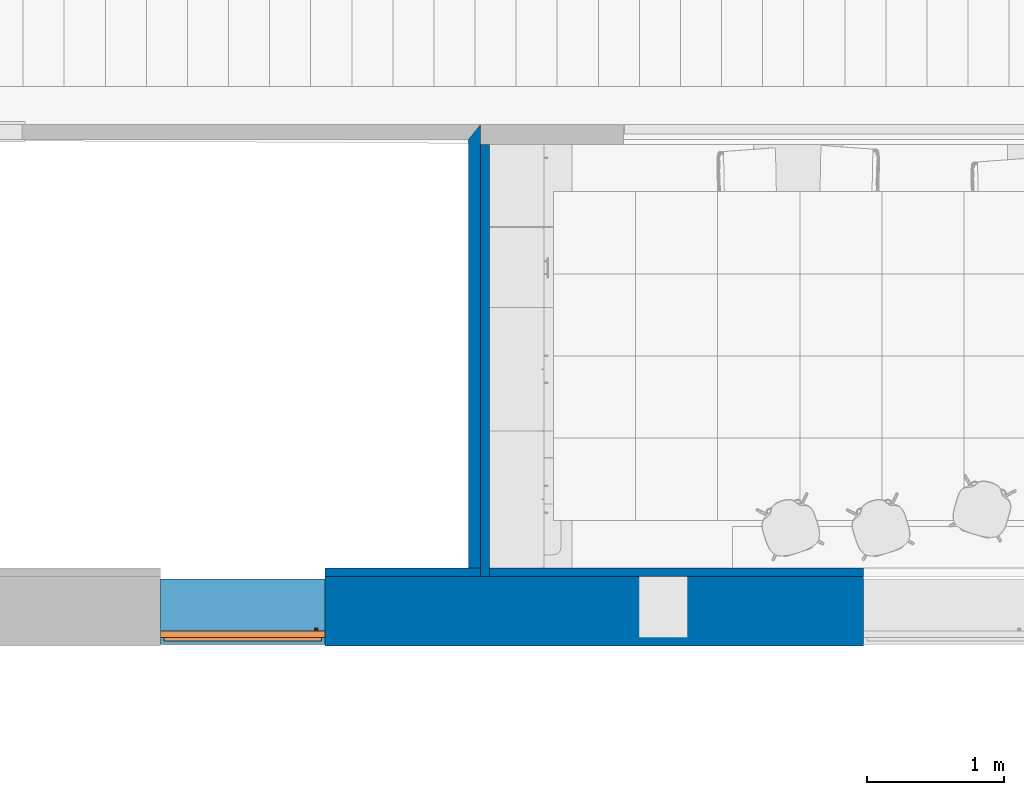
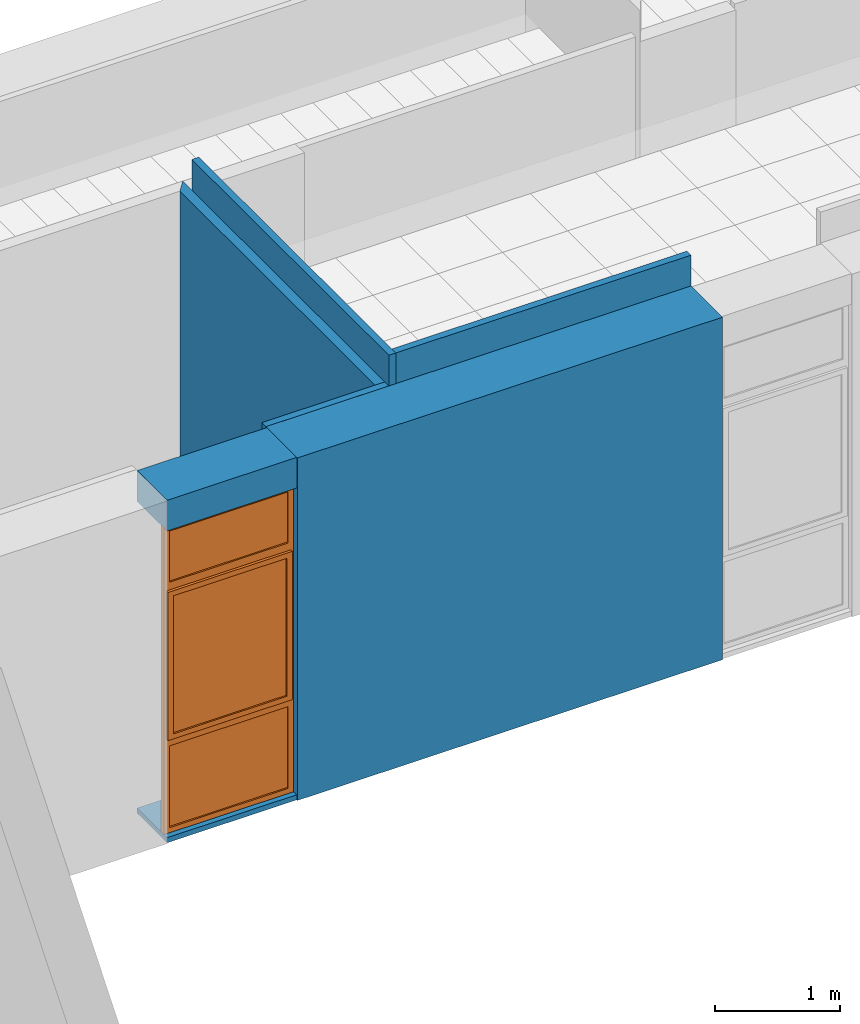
# One storey, part 33 of 60: 6 walls, 1 proxy, 1 opening.
"""IFC2X3 building model written with IfcOpenShell, lengths in millimetres."""

from ifc_helpers import new_model, entity, si_unit, converted_unit, derived_unit, money_unit, direction, frame, origin_with_axes, origin_2d_with_axis, place, context, subcontext, project, spatial, polyline, rectangle, outline, extrude, open_shell, faceted_brep, surface_model, source, transform, mapped, material, layer, layer_set, layer_usage, type_object, element, fill, save


model = new_model("IFC2X3")

# Units and contexts
model_context = context("Model", 3, precision=0.01, world=origin_with_axes(), true_north=direction((0.0, 1.0)))
body_context = subcontext(model_context, "Body", "Model", "MODEL_VIEW")
ifc_project = project(units=[si_unit("LENGTHUNIT", "METRE", prefix="MILLI"), si_unit("AREAUNIT", "SQUARE_METRE"), si_unit("VOLUMEUNIT", "CUBIC_METRE"), converted_unit("PLANEANGLEUNIT", "DEGREE", entity("IfcPlaneAngleMeasure", 0.0174532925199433), si_unit("PLANEANGLEUNIT", "RADIAN"), dimensions=[0, 0, 0, 0, 0, 0, 0]), money_unit("USD"), converted_unit("TIMEUNIT", "Year", entity("IfcTimeMeasure", 31557600.0), si_unit("TIMEUNIT", "SECOND"), dimensions=[0, 0, 1, 0, 0, 0, 0]), si_unit("MASSUNIT", "GRAM", prefix="KILO"), si_unit("THERMODYNAMICTEMPERATUREUNIT", "DEGREE_CELSIUS"), si_unit("LUMINOUSINTENSITYUNIT", "LUMEN"), si_unit("ENERGYUNIT", "JOULE", prefix="MEGA"), derived_unit("THERMALCONDUCTANCEUNIT", [(si_unit("POWERUNIT", "WATT"), 1), (si_unit("LENGTHUNIT", "METRE"), -1), (si_unit("THERMODYNAMICTEMPERATUREUNIT", "KELVIN"), -1)]), derived_unit("SPECIFICHEATCAPACITYUNIT", [(si_unit("ENERGYUNIT", "JOULE"), 1), (si_unit("MASSUNIT", "GRAM", prefix="KILO"), -1), (si_unit("THERMODYNAMICTEMPERATUREUNIT", "KELVIN"), -1)]), derived_unit("MASSDENSITYUNIT", [(si_unit("MASSUNIT", "GRAM", prefix="KILO"), 1), (si_unit("VOLUMEUNIT", "CUBIC_METRE"), -1)])], contexts=[model_context])

# Site, building, storey
site_placement = place(None, origin_with_axes())
site = spatial("IfcSite", under=ifc_project, at=site_placement, Name="Sitio", CompositionType="ELEMENT")
building_placement = place(site_placement, origin_with_axes())
building = spatial("IfcBuilding", under=site, at=building_placement, Name="Construcción", CompositionType="ELEMENT")
storey_placement = place(building_placement, frame((0.0, 0.0, 3650.0), z_axis=(0.0, 0.0, 1.0), x_axis=(1.0, 0.0, 0.0)))
storey = spatial("IfcBuildingStorey", under=building, at=storey_placement, Name="PLANTA 2ª", CompositionType="ELEMENT", Elevation=3650.0)

# Wall, opening, proxy
ifc_material_1 = material(Name="ARQ_AM246_Arrebossat_De_Guix")
ifc_layer_1 = layer(ifc_material_1, 10.0, ventilated="UNKNOWN")
ifc_material_2 = material(Name="ARQ_CE217_Gero")
ifc_layer_2 = layer(ifc_material_2, 120.0, ventilated="UNKNOWN")
ifc_material_3 = material(Name="ARQ_AI031_Aillament_Poliestireno expandido EPS")
ifc_layer_3 = layer(ifc_material_3, 120.0, ventilated="UNKNOWN")
ifc_material_4 = material(Name="ARQ_CE218_Ceramic")
ifc_layer_4 = layer(ifc_material_4, 220.0, ventilated="UNKNOWN")
ifc_layer_5 = layer(ifc_material_1, 10.0, ventilated="UNKNOWN")
ifc_layer_set_1 = layer_set([ifc_layer_1, ifc_layer_2, ifc_layer_3, ifc_layer_4, ifc_layer_5], Name="façana pati CR2 (ampit)")
ifc_layer_usage_1 = layer_usage(ifc_layer_set_1, "AXIS2", "POSITIVE", -480.0)
wall_type_1 = type_object("IfcWallType", Name="façana pati CR2 (ampit) 480", PredefinedType="NOTDEFINED")
wall_1_placement = place(storey_placement, frame((-25366.43135579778, -1208.97582371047, 0.0), z_axis=(0.0, 0.0, 1.0), x_axis=(1.0, 0.0, 0.0)))
wall_1 = element("IfcWallStandardCase", 1, at=wall_1_placement, inside=storey, type_object=wall_type_1, material=ifc_layer_usage_1, Name="MS-200", context=body_context, shape_type="SweptSolid", body=[
    extrude(outline(polyline([(0.0, -480.0), (1200.000000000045, -480.0), (1200.000000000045, 0.0), (0.0, 0.0), (0.0, -480.0)])), origin_with_axes(), (0.0, 0.0, 1.0), 3350.0),
])
opening_placement = place(wall_1_placement, frame((600.0000000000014, 0.0, 49.99999999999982), z_axis=(0.0, 0.0, 1.0), x_axis=(1.0, 0.0, 0.0)))
opening = element("IfcOpeningElement", 2, at=opening_placement, cuts=wall_1, Name="V - 008", context=body_context, shape_type="SweptSolid", body=[
    extrude(rectangle(XDim=1200.000000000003, YDim=3000.0, at=origin_2d_with_axis()), frame((0.0, -429.9999999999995, 1500.0), z_axis=(0.0, -1.0, 0.0), x_axis=(-1.0, 0.0, 0.0)), (0.0, 0.0, -1.0), 909.9999999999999),
    extrude(rectangle(XDim=1200.000000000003, YDim=3000.0, at=origin_2d_with_axis()), frame((0.0, -429.9999999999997, 1500.0), z_axis=(0.0, 1.0, 0.0), x_axis=(-1.0, 0.0, 0.0)), (0.0, 0.0, -1.0), 530.0),
])
building_element_proxy_type = type_object("IfcBuildingElementProxyType", Name="Ventana Vertical Multi-Faja 27", PredefinedType="NOTDEFINED")
shared_shape = source(origin_with_axes(), body_context, "Body", "SurfaceModel", [
    faceted_brep([(-575.0, 0.0, 925.0), (-549.9999999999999, 0.0, 925.0), (-549.9999999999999, 0.0, 850.0), (-549.9999999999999, 0.0, 50.00000000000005), (-600.0, 0.0, 50.00000000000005), (-600.0, 0.0, 2950.0), (-549.9999999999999, 0.0, 2950.0), (-549.9999999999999, 0.0, 2450.0), (-549.9999999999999, 0.0, 2375.0), (-575.0, 0.0, 2375.0), (-575.0, -25.00000000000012, 925.0), (-549.9999999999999, -25.00000000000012, 925.0), (-549.9999999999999, -25.00000000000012, 950.0000000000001), (-549.9999999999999, -50.00000000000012, 950.0000000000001), (-549.9999999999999, -50.00000000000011, 850.0), (-549.9999999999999, -50.00000000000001, 50.00000000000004), (-600.0, -50.00000000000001, 50.00000000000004), (-600.0, -50.00000000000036, 2950.0), (-549.9999999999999, -50.00000000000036, 2950.0), (-549.9999999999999, -50.0000000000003, 2450.0), (-550.0, -25.00000000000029, 2375.0), (-549.9999999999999, -50.00000000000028, 2350.0), (-549.9999999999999, -25.00000000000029, 2350.0), (-575.0, -25.00000000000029, 2375.0)], [[[0, 1, 2, 3, 4, 5, 6, 7, 8, 9]], [[0, 10, 11, 1]], [[11, 12, 13, 14, 2, 1]], [[3, 2, 14, 15]], [[4, 3, 15, 16]], [[5, 4, 16, 17]], [[6, 5, 17, 18]], [[7, 6, 18, 19]], [[20, 8, 7, 19, 21, 22]], [[20, 23, 9, 8]], [[9, 23, 10, 0]], [[22, 12, 11, 10, 23, 20]], [[22, 21, 13, 12]], [[17, 16, 15, 14, 13, 21, 19, 18]]]),
    faceted_brep([(575.0, 0.0, 925.0), (575.0, 0.0, 2375.0), (549.9999999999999, 0.0, 2375.0), (549.9999999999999, 0.0, 2450.0), (549.9999999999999, 0.0, 2950.0), (600.0, 0.0, 2950.0), (600.0, 0.0, 50.00000000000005), (549.9999999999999, 0.0, 50.00000000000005), (549.9999999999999, 0.0, 850.0), (549.9999999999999, 0.0, 925.0), (575.0, -25.00000000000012, 925.0), (575.0, -25.00000000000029, 2375.0), (549.9999999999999, -25.00000000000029, 2375.0), (549.9999999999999, -25.00000000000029, 2350.0), (549.9999999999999, -50.00000000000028, 2350.0), (549.9999999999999, -50.0000000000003, 2450.0), (549.9999999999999, -50.00000000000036, 2950.0), (600.0, -50.00000000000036, 2950.0), (600.0, -50.00000000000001, 50.00000000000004), (549.9999999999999, -50.00000000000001, 50.00000000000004), (549.9999999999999, -50.00000000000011, 850.0), (550.0, -25.00000000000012, 925.0), (549.9999999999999, -50.00000000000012, 950.0000000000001), (549.9999999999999, -25.00000000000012, 950.0000000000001)], [[[0, 1, 2, 3, 4, 5, 6, 7, 8, 9]], [[0, 10, 11, 1]], [[1, 11, 12, 2]], [[12, 13, 14, 15, 3, 2]], [[4, 3, 15, 16]], [[5, 4, 16, 17]], [[6, 5, 17, 18]], [[7, 6, 18, 19]], [[8, 7, 19, 20]], [[21, 9, 8, 20, 22, 23]], [[9, 21, 10, 0]], [[12, 11, 10, 21, 23, 13]], [[23, 22, 14, 13]], [[14, 22, 20, 19, 18, 17, 16, 15]]]),
    faceted_brep([(-549.9999999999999, -25.00000000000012, 950.0000000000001), (-549.9999999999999, -50.00000000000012, 950.0000000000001), (549.9999999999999, -50.00000000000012, 950.0000000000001), (549.9999999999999, -25.00000000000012, 950.0000000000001), (-549.9999999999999, -25.00000000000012, 925.0), (-549.9999999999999, 0.0, 925.0), (-549.9999999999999, 0.0, 850.0), (-549.9999999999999, -50.00000000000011, 850.0), (549.9999999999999, -50.00000000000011, 850.0), (550.0, -25.00000000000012, 925.0), (549.9999999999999, 0.0, 850.0), (549.9999999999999, 0.0, 925.0)], [[[0, 1, 2, 3]], [[4, 5, 6, 7, 1, 0]], [[1, 7, 8, 2]], [[9, 3, 2, 8, 10, 11]], [[9, 4, 0, 3]], [[5, 4, 9, 11]], [[11, 10, 6, 5]], [[6, 10, 8, 7]]]),
    faceted_brep([(-549.9999999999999, 0.0, 2375.0), (-549.9999999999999, 0.0, 2450.0), (549.9999999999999, 0.0, 2450.0), (549.9999999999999, 0.0, 2375.0), (-550.0, -25.00000000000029, 2375.0), (-549.9999999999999, -25.00000000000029, 2350.0), (-549.9999999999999, -50.00000000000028, 2350.0), (-549.9999999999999, -50.0000000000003, 2450.0), (549.9999999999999, -50.0000000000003, 2450.0), (549.9999999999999, -25.00000000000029, 2375.0), (549.9999999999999, -50.00000000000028, 2350.0), (549.9999999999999, -25.00000000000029, 2350.0)], [[[0, 1, 2, 3]], [[4, 5, 6, 7, 1, 0]], [[2, 1, 7, 8]], [[9, 3, 2, 8, 10, 11]], [[9, 4, 0, 3]], [[11, 5, 4, 9]], [[11, 10, 6, 5]], [[7, 6, 10, 8]]]),
    faceted_brep([(549.9999999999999, -50.00000000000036, 2950.0), (549.9999999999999, 0.0, 2950.0), (600.0, 0.0, 2950.0), (600.0, -50.00000000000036, 2950.0), (-549.9999999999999, -50.00000000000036, 2950.0), (-549.9999999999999, 0.0, 2950.0), (-600.0, 0.0, 2950.0), (-600.0, 0.0, 3000.0), (600.0, 0.0, 3000.0), (600.0, -50.00000000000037, 3000.0), (-600.0, -50.00000000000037, 3000.0), (-600.0, -50.00000000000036, 2950.0)], [[[0, 1, 2, 3]], [[4, 5, 1, 0]], [[1, 5, 6, 7, 8, 2]], [[3, 2, 8, 9]], [[0, 3, 9, 10, 11, 4]], [[11, 6, 5, 4]], [[10, 7, 6, 11]], [[9, 8, 7, 10]]]),
    faceted_brep([(-549.9999999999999, -50.00000000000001, 50.0), (-549.9999999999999, 0.0, 50.00000000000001), (-600.0, 0.0, 50.00000000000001), (-600.0, -50.00000000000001, 50.0), (549.9999999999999, -50.00000000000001, 50.0), (549.9999999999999, 0.0, 50.00000000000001), (600.0, 0.0, 50.00000000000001), (600.0, 0.0, 0.0), (-600.0, 0.0, 0.0), (-600.0, -50.0, 0.0), (600.0, -50.0, 0.0), (600.0, -50.00000000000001, 50.0)], [[[0, 1, 2, 3]], [[4, 5, 1, 0]], [[1, 5, 6, 7, 8, 2]], [[3, 2, 8, 9]], [[0, 3, 9, 10, 11, 4]], [[11, 6, 5, 4]], [[10, 7, 6, 11]], [[9, 8, 7, 10]]]),
    surface_model("IfcShellBasedSurfaceModel", [(-549.9999999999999, -35.0, 49.99999999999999), (549.9999999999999, -35.0, 49.99999999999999), (549.9999999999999, -35.0000000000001, 850.0), (-549.9999999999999, -35.0000000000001, 850.0)], [open_shell([[[0, 1, 2, 3]]])]),
    surface_model("IfcShellBasedSurfaceModel", [(-549.9999999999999, -15.0, 49.99999999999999), (-549.9999999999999, -15.0000000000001, 850.0), (549.9999999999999, -15.0000000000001, 850.0), (549.9999999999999, -15.0, 49.99999999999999)], [open_shell([[[0, 1, 2, 3]]])]),
    faceted_brep([(-521.5, -25.00000000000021, 1677.0), (-522.8397459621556, -25.00000000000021, 1682.0), (-522.8397459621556, -37.00000000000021, 1682.0), (-521.5, -37.00000000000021, 1677.0), (-521.5, -25.0000000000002, 1623.0), (-522.8397459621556, -25.0000000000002, 1618.0), (-526.5, -25.0000000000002, 1614.339745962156), (-531.5, -25.0000000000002, 1613.0), (-543.5, -25.0000000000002, 1613.0), (-548.5, -25.0000000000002, 1614.339745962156), (-552.1602540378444, -25.0000000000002, 1618.0), (-553.5, -25.0000000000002, 1623.0), (-553.5, -25.00000000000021, 1677.0), (-552.1602540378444, -25.00000000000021, 1682.0), (-548.5, -25.00000000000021, 1685.660254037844), (-543.5, -25.00000000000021, 1687.0), (-531.5, -25.00000000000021, 1687.0), (-526.5, -25.00000000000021, 1685.660254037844), (-526.5, -37.00000000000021, 1685.660254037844), (-531.5, -37.00000000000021, 1687.0), (-543.5, -37.00000000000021, 1687.0), (-548.5, -37.00000000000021, 1685.660254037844), (-552.1602540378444, -37.00000000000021, 1682.0), (-553.5, -37.00000000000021, 1677.0), (-553.5, -37.0000000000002, 1623.0), (-552.1602540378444, -37.0000000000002, 1618.0), (-548.5, -37.0000000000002, 1614.339745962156), (-543.5, -37.0000000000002, 1613.0), (-531.5, -37.0000000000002, 1613.0), (-526.5, -37.0000000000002, 1614.339745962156), (-522.8397459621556, -37.0000000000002, 1618.0), (-521.5, -37.0000000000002, 1623.0)], [[[0, 1, 2, 3]], [[0, 4, 5, 6, 7, 8, 9, 10, 11, 12, 13, 14, 15, 16, 17, 1]], [[1, 17, 18, 2]], [[3, 2, 18, 19, 20, 21, 22, 23, 24, 25, 26, 27, 28, 29, 30, 31]], [[4, 0, 3, 31]], [[5, 4, 31, 30]], [[6, 5, 30, 29]], [[7, 6, 29, 28]], [[8, 7, 28, 27]], [[9, 8, 27, 26]], [[10, 9, 26, 25]], [[11, 10, 25, 24]], [[12, 11, 24, 23]], [[13, 12, 23, 22]], [[14, 13, 22, 21]], [[15, 14, 21, 20]], [[16, 15, 20, 19]], [[17, 16, 19, 18]]]),
    faceted_brep([(-537.5, -37.0000000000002, 1663.5), (-544.25, -37.0000000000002, 1661.69134295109), (-544.25, -61.00000000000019, 1661.69134295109), (-537.5, -61.00000000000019, 1663.5), (-530.75, -37.0000000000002, 1661.69134295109), (-525.80865704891, -37.0000000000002, 1656.75), (-524.0, -37.0000000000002, 1650.0), (-525.8086570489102, -37.0000000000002, 1643.25), (-530.75, -37.0000000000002, 1638.30865704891), (-537.5, -37.0000000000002, 1636.5), (-544.25, -37.0000000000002, 1638.30865704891), (-549.19134295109, -37.0000000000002, 1643.25), (-550.9999999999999, -37.0000000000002, 1650.0), (-549.1913429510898, -37.0000000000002, 1656.75), (-549.1913429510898, -61.00000000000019, 1656.75), (-550.9999999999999, -61.00000000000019, 1650.0), (-549.19134295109, -61.00000000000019, 1643.25), (-544.25, -61.00000000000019, 1638.30865704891), (-537.5, -61.00000000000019, 1636.5), (-530.75, -61.00000000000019, 1638.30865704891), (-525.8086570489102, -61.00000000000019, 1643.25), (-524.0, -61.00000000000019, 1650.0), (-525.80865704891, -61.00000000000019, 1656.75), (-530.75, -61.00000000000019, 1661.69134295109)], [[[0, 1, 2, 3]], [[0, 4, 5, 6, 7, 8, 9, 10, 11, 12, 13, 1]], [[1, 13, 14, 2]], [[3, 2, 14, 15, 16, 17, 18, 19, 20, 21, 22, 23]], [[4, 0, 3, 23]], [[5, 4, 23, 22]], [[6, 5, 22, 21]], [[7, 6, 21, 20]], [[8, 7, 20, 19]], [[9, 8, 19, 18]], [[10, 9, 18, 17]], [[11, 10, 17, 16]], [[12, 11, 16, 15]], [[13, 12, 15, 14]]]),
    faceted_brep([(-526.0, -61.00000000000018, 1543.0), (-537.5, -61.00000000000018, 1540.0), (-548.9999999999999, -61.00000000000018, 1543.0), (-550.9999999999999, -61.00000000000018, 1546.0), (-550.9999999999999, -61.00000000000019, 1650.0), (-549.1913429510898, -61.00000000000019, 1656.75), (-544.25, -61.00000000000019, 1661.69134295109), (-537.5, -61.00000000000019, 1663.5), (-530.75, -61.00000000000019, 1661.69134295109), (-525.80865704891, -61.00000000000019, 1656.75), (-524.0, -61.00000000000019, 1650.0), (-524.0, -61.00000000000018, 1546.0), (-525.9999999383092, -69.00000000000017, 1543.000000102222), (-537.499999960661, -69.00000000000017, 1539.999999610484), (-548.9999999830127, -69.00000000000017, 1543.000000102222), (-551.0000003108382, -69.00000000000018, 1545.999999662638), (-551.0000003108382, -69.0000000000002, 1649.99999994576), (-549.1913429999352, -69.0000000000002, 1656.749999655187), (-544.2499996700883, -69.0000000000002, 1661.691342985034), (-537.499999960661, -69.0000000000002, 1663.500000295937), (-530.7500002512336, -69.0000000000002, 1661.691342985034), (-525.8086569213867, -69.0000000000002, 1656.749999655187), (-523.9999996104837, -69.0000000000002, 1649.99999994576), (-523.9999996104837, -69.00000000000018, 1545.999999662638), (-527.8625374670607, -71.99999956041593, 1545.61451963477), (-537.499999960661, -71.99999956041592, 1543.100398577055), (-547.1374624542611, -71.99999956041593, 1545.61451963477), (-548.0000007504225, -71.99999956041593, 1546.908326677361), (-548.0000007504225, -71.99999956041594, 1649.605042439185), (-546.5016170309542, -71.99999956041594, 1655.197085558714), (-542.6970855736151, -71.99999956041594, 1659.001617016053), (-537.499999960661, -71.99999956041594, 1660.394172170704), (-532.3029143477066, -71.99999956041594, 1659.001617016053), (-528.4983828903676, -71.99999956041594, 1655.197085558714), (-526.9999991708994, -71.99999956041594, 1649.605042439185), (-526.9999991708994, -71.99999956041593, 1546.908326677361)], [[[0, 1, 2, 3, 4, 5, 6, 7, 8, 9, 10, 11]], [[1, 0, 12, 13]], [[2, 1, 13, 14]], [[3, 2, 14, 15]], [[4, 3, 15, 16]], [[5, 4, 16, 17]], [[6, 5, 17, 18]], [[7, 6, 18, 19]], [[8, 7, 19, 20]], [[9, 8, 20, 21]], [[10, 9, 21, 22]], [[11, 10, 22, 23]], [[0, 11, 23, 12]], [[13, 12, 24, 25]], [[14, 13, 25, 26]], [[15, 14, 26, 27]], [[16, 15, 27, 28]], [[17, 16, 28, 29]], [[18, 17, 29, 30]], [[19, 18, 30, 31]], [[20, 19, 31, 32]], [[21, 20, 32, 33]], [[22, 21, 33, 34]], [[23, 22, 34, 35]], [[12, 23, 35, 24]], [[26, 25, 24, 35, 34, 33, 32, 31, 30, 29, 28, 27]]]),
    faceted_brep([(-524.9999999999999, -25.00000000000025, 2325.0), (-524.9999999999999, 24.99999999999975, 2325.0), (-575.0, 24.99999999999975, 2325.0), (-575.0, -25.00000000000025, 2325.0), (-524.9999999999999, -25.00000000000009, 975.0000000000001), (-524.9999999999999, 24.99999999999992, 975.0000000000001), (-575.0, 24.99999999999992, 975.0000000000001), (-575.0, -25.00000000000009, 975.0000000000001)], [[[0, 1, 2, 3]], [[4, 5, 1, 0]], [[1, 5, 6, 2]], [[3, 2, 6, 7]], [[0, 3, 7, 4]], [[7, 6, 5, 4]]]),
    faceted_brep([(524.9999999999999, -25.00000000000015, 975.0000000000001), (524.9999999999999, 24.99999999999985, 975.0000000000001), (575.0, 24.99999999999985, 975.0000000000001), (575.0, -25.00000000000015, 975.0000000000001), (524.9999999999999, -25.00000000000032, 2325.0), (524.9999999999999, 24.99999999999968, 2325.0), (575.0, 24.99999999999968, 2325.0), (575.0, -25.00000000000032, 2325.0)], [[[0, 1, 2, 3]], [[4, 5, 1, 0]], [[1, 5, 6, 2]], [[3, 2, 6, 7]], [[0, 3, 7, 4]], [[7, 6, 5, 4]]]),
    faceted_brep([(575.0, -25.00000000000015, 925.0), (575.0, 24.99999999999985, 925.0), (575.0, 24.99999999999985, 975.0000000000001), (575.0, -25.00000000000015, 975.0000000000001), (-575.0, -25.00000000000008, 925.0), (-575.0, 24.99999999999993, 925.0), (-575.0, 24.99999999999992, 975.0000000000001), (-524.9999999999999, 24.99999999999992, 975.0000000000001), (524.9999999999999, 24.99999999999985, 975.0000000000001), (524.9999999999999, -25.00000000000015, 975.0000000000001), (-524.9999999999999, -25.00000000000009, 975.0000000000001), (-575.0, -25.00000000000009, 975.0000000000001)], [[[0, 1, 2, 3]], [[4, 5, 1, 0]], [[1, 5, 6, 7, 8, 2]], [[3, 2, 8, 9]], [[0, 3, 9, 10, 11, 4]], [[11, 6, 5, 4]], [[10, 7, 6, 11]], [[9, 8, 7, 10]]]),
    faceted_brep([(-575.0, -25.00000000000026, 2375.0), (-575.0, 24.99999999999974, 2375.0), (-575.0, 24.99999999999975, 2325.0), (-575.0, -25.00000000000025, 2325.0), (575.0, -25.00000000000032, 2375.0), (575.0, 24.99999999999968, 2375.0), (575.0, 24.99999999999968, 2325.0), (524.9999999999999, 24.99999999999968, 2325.0), (-524.9999999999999, 24.99999999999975, 2325.0), (-524.9999999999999, -25.00000000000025, 2325.0), (524.9999999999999, -25.00000000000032, 2325.0), (575.0, -25.00000000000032, 2325.0)], [[[0, 1, 2, 3]], [[4, 5, 1, 0]], [[1, 5, 6, 7, 8, 2]], [[3, 2, 8, 9]], [[0, 3, 9, 10, 11, 4]], [[11, 6, 5, 4]], [[10, 7, 6, 11]], [[9, 8, 7, 10]]]),
    surface_model("IfcShellBasedSurfaceModel", [(-524.9999999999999, -10.00000000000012, 975.0000000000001), (524.9999999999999, -10.00000000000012, 975.0000000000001), (524.9999999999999, -10.00000000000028, 2325.0), (-524.9999999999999, -10.00000000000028, 2325.0)], [open_shell([[[0, 1, 2, 3]]])]),
    surface_model("IfcShellBasedSurfaceModel", [(-524.9999999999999, 9.999999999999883, 975.0000000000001), (-524.9999999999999, 9.99999999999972, 2325.0), (524.9999999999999, 9.99999999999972, 2325.0), (524.9999999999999, 9.999999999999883, 975.0000000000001)], [open_shell([[[0, 1, 2, 3]]])]),
    surface_model("IfcShellBasedSurfaceModel", [(-549.9999999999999, -35.0000000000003, 2450.0), (549.9999999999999, -35.0000000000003, 2450.0), (549.9999999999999, -35.00000000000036, 2950.0), (-549.9999999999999, -35.00000000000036, 2950.0)], [open_shell([[[0, 1, 2, 3]]])]),
    surface_model("IfcShellBasedSurfaceModel", [(-549.9999999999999, -15.0000000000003, 2450.0), (-549.9999999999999, -15.00000000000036, 2950.0), (549.9999999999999, -15.00000000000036, 2950.0), (549.9999999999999, -15.0000000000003, 2450.0)], [open_shell([[[0, 1, 2, 3]]])]),
])
proxy_placement = place(opening_placement, frame((600.0000000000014, 0.0, 0.0), z_axis=(0.0, 0.0, 1.0), x_axis=(-1.0, 0.0, 0.0)))
proxy = element("IfcBuildingElementProxy", 3, at=proxy_placement, inside=storey, type_object=building_element_proxy_type, Name="V - 008", context=body_context, shape_type="MappedRepresentation", body=[
    mapped(shared_shape, transform((600.0000000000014, 429.9999999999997, 0.0))),
])
fill(opening, proxy)

# Walls
ifc_layer_6 = layer(ifc_material_2, 10.0, ventilated="UNKNOWN")
ifc_layer_7 = layer(ifc_material_2, 90.0, ventilated="UNKNOWN")
ifc_layer_8 = layer(ifc_material_3, 180.0, ventilated="UNKNOWN")
ifc_layer_9 = layer(ifc_material_4, 215.0, ventilated="UNKNOWN")
ifc_layer_10 = layer(ifc_material_1, 10.0, ventilated="UNKNOWN")
ifc_layer_set_2 = layer_set([ifc_layer_6, ifc_layer_7, ifc_layer_8, ifc_layer_9, ifc_layer_10], Name="façana pati CR2")
ifc_layer_usage_2 = layer_usage(ifc_layer_set_2, "AXIS2", "POSITIVE", -505.0)
wall_type_2 = type_object("IfcWallType", Name="façana pati CR2 505", PredefinedType="NOTDEFINED")
wall_2_placement = place(storey_placement, frame((-24166.43135579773, -1193.97582371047, 0.0), z_axis=(0.0, 0.0, 1.0), x_axis=(1.0, 0.0, 0.0)))
element("IfcWallStandardCase", 4, at=wall_2_placement, inside=storey, type_object=wall_type_2, material=ifc_layer_usage_2, Name="MS-200", context=body_context, shape_type="SweptSolid", body=[
    extrude(outline(polyline([(0.0, -504.9999999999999), (3932.500000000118, -505.0000000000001), (3932.500000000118, 0.0), (0.0, 0.0), (0.0, -504.9999999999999)])), origin_with_axes(), (0.0, 0.0, 1.0), 3350.0),
])
ifc_material_5 = material(Name="ARQ_FU093_Panellat_HPL")
ifc_layer_11 = layer(ifc_material_5, 6.0, ventilated="UNKNOWN")
ifc_material_6 = material(Name="ARQ_EN271_Camara_Aire")
ifc_layer_12 = layer(ifc_material_6, 6.0, ventilated="UNKNOWN")
ifc_material_7 = material(Name="Panel de Yeso Laminado")
ifc_layer_13 = layer(ifc_material_7, 13.0, ventilated="UNKNOWN")
ifc_material_8 = material(Name="ARQ_AI033_Aillament_Llana_De_Roca")
ifc_layer_14 = layer(ifc_material_8, 40.0, ventilated="UNKNOWN")
ifc_layer_set_3 = layer_set([ifc_layer_11, ifc_layer_12, ifc_layer_13, ifc_layer_14], Name="Pladur Tras 40 / 1N +HPL")
ifc_layer_usage_3 = layer_usage(ifc_layer_set_3, "AXIS2", "POSITIVE", -65.0)
wall_type_3 = type_object("IfcWallType", Name="Pladur Tras 40 / 1N +HPL 65", PredefinedType="NOTDEFINED")
wall_3_placement = place(storey_placement, frame((-23028.41789761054, -1193.97582371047, 0.0), z_axis=(0.0, 0.0, 1.0), x_axis=(0.0, 1.0, 0.0)))
element("IfcWallStandardCase", 5, at=wall_3_placement, inside=storey, type_object=wall_type_3, material=ifc_layer_usage_3, Name="MS-243", context=body_context, shape_type="SweptSolid", body=[
    extrude(outline(polyline([(0.0, -65.00000000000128), (3157.530694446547, -65.00000000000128), (3157.530694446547, 0.0), (0.0, 0.0), (0.0, -65.00000000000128)])), origin_with_axes(), (0.0, 0.0, 1.0), 3650.0),
])
ifc_layer_usage_4 = layer_usage(ifc_layer_set_3, "AXIS2", "POSITIVE", -65.0)
wall_4_placement = place(storey_placement, frame((-20233.93135579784, -1193.97582371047, 0.0), z_axis=(0.0, 0.0, 1.0), x_axis=(-1.0, 0.0, 0.0)))
element("IfcWallStandardCase", 6, at=wall_4_placement, inside=storey, type_object=wall_type_3, material=ifc_layer_usage_4, Name="MS-243", context=body_context, shape_type="SweptSolid", body=[
    extrude(outline(polyline([(0.0, -64.99999999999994), (2729.486541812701, -64.99999999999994), (2729.486541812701, 0.0), (0.0, 0.0), (0.0, -64.99999999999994)])), origin_with_axes(), (0.0, 0.0, 1.0), 3650.0),
])
ifc_layer_usage_5 = layer_usage(ifc_layer_set_3, "AXIS2", "NEGATIVE", 0.0)
wall_5_placement = place(storey_placement, frame((-24166.43135579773, -1128.975823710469, 0.0), z_axis=(0.0, 0.0, 1.0), x_axis=(1.0, 0.0, 0.0)))
element("IfcWallStandardCase", 7, at=wall_5_placement, inside=storey, type_object=wall_type_3, material=ifc_layer_usage_5, Name="MS-241", context=body_context, shape_type="SweptSolid", body=[
    extrude(outline(polyline([(0.0, -64.99999999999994), (3932.499999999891, -64.99999999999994), (3932.499999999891, 0.0), (0.0, 0.0), (0.0, -64.99999999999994)])), origin_with_axes(), (0.0, 0.0, 1.0), 3350.0),
])
ifc_layer_15 = layer(ifc_material_1, 10.0, ventilated="UNKNOWN")
ifc_layer_16 = layer(ifc_material_2, 70.0, ventilated="UNKNOWN")
ifc_layer_17 = layer(ifc_material_1, 10.0, ventilated="UNKNOWN")
ifc_layer_set_4 = layer_set([ifc_layer_15, ifc_layer_16, ifc_layer_17], Name="CR Enva Totxaneta")
ifc_layer_usage_6 = layer_usage(ifc_layer_set_4, "AXIS2", "POSITIVE", 0.0)
wall_type_4 = type_object("IfcWallType", Name="CR Enva Totxaneta 90", PredefinedType="NOTDEFINED")
wall_6_placement = place(storey_placement, frame((-23028.41789761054, -1193.975823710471, 0.0), z_axis=(0.0, 0.0, 1.0), x_axis=(0.0, 1.0, 0.0)))
element("IfcWallStandardCase", 8, at=wall_6_placement, inside=storey, type_object=wall_type_4, material=ifc_layer_usage_6, Name="MS-203", context=body_context, shape_type="SweptSolid", body=[
    extrude(outline(polyline([(0.0, 0.0), (3303.53069444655, 0.0), (3193.530694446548, 89.99999999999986), (0.0, 89.99999999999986), (0.0, 0.0)])), origin_with_axes(), (0.0, 0.0, 1.0), 3350.0),
])

save(model, "model.ifc")
